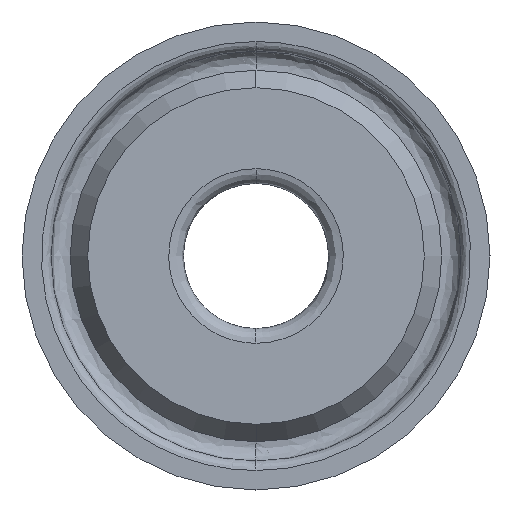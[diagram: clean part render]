
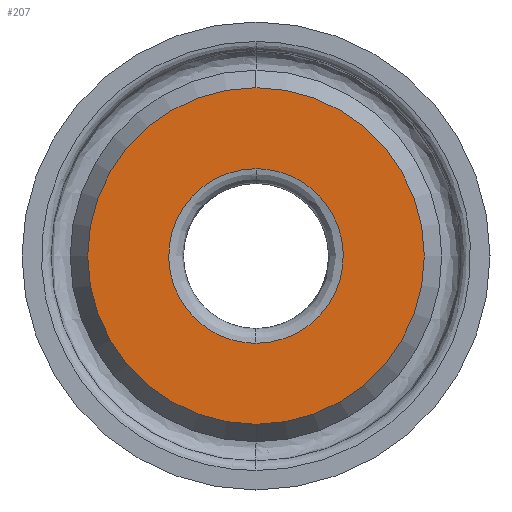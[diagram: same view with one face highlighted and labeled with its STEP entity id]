
A CAD part, left-side view. The second image highlights one B-rep face of the part: STEP entity #207.
In plain terms, the highlighted planar face has unit normal (-1, 0, 0).
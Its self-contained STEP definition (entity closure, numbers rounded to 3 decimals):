
#32 = CARTESIAN_POINT ( 'NONE',  ( 0.787, 0., 4.661 ) ) ;
#34 = EDGE_CURVE ( 'NONE', #608, #432, #741, .T. ) ;
#62 = CARTESIAN_POINT ( 'NONE',  ( 0.787, 0., 0. ) ) ;
#65 = DIRECTION ( 'NONE',  ( 1., 0., 0. ) ) ;
#75 = AXIS2_PLACEMENT_3D ( 'NONE', #403, #192, #437 ) ;
#78 = CARTESIAN_POINT ( 'NONE',  ( 0.787, 4.661, 0. ) ) ;
#85 = PLANE ( 'NONE',  #672 ) ;
#93 = DIRECTION ( 'NONE',  ( 0., 0., -1. ) ) ;
#105 = CARTESIAN_POINT ( 'NONE',  ( 0.787, 0., -4.661 ) ) ;
#144 = AXIS2_PLACEMENT_3D ( 'NONE', #62, #65, #172 ) ;
#161 = ORIENTED_EDGE ( 'NONE', *, *, #510, .F. ) ;
#165 = ORIENTED_EDGE ( 'NONE', *, *, #541, .F. ) ;
#172 = DIRECTION ( 'NONE',  ( 0., 0., -1. ) ) ;
#175 = ORIENTED_EDGE ( 'NONE', *, *, #34, .F. ) ;
#176 = ORIENTED_EDGE ( 'NONE', *, *, #606, .F. ) ;
#186 =( BOUNDED_CURVE ( )  B_SPLINE_CURVE ( 3, ( #105, #290, #452, #283 ),
 .UNSPECIFIED., .F., .F. ) 
 B_SPLINE_CURVE_WITH_KNOTS ( ( 4, 4 ),
 ( 0., 1. ),
 .UNSPECIFIED. ) 
 CURVE ( )  GEOMETRIC_REPRESENTATION_ITEM ( )  RATIONAL_B_SPLINE_CURVE ( ( 1., 0.333, 0.333, 1. ) ) 
 REPRESENTATION_ITEM ( '' )  );
#192 = DIRECTION ( 'NONE',  ( 1., 0., 0. ) ) ;
#207 = ADVANCED_FACE ( 'NONE', ( #522, #468 ), #85, .F. ) ;
#282 = CIRCLE ( 'NONE', #144, 8.987 ) ;
#283 = CARTESIAN_POINT ( 'NONE',  ( 0.787, 0., 4.661 ) ) ;
#290 = CARTESIAN_POINT ( 'NONE',  ( 0.787, -9.322, -4.661 ) ) ;
#293 = CARTESIAN_POINT ( 'NONE',  ( 0.787, 0., -8.987 ) ) ;
#374 =( BOUNDED_CURVE ( )  B_SPLINE_CURVE ( 3, ( #707, #697, #730, #736 ),
 .UNSPECIFIED., .F., .F. ) 
 B_SPLINE_CURVE_WITH_KNOTS ( ( 4, 4 ),
 ( 0., 1. ),
 .UNSPECIFIED. ) 
 CURVE ( )  GEOMETRIC_REPRESENTATION_ITEM ( )  RATIONAL_B_SPLINE_CURVE ( ( 1., 0.333, 0.333, 1. ) ) 
 REPRESENTATION_ITEM ( '' )  );
#380 = EDGE_LOOP ( 'NONE', ( #175, #165 ) ) ;
#403 = CARTESIAN_POINT ( 'NONE',  ( 0.787, 0., 0. ) ) ;
#431 = VERTEX_POINT ( 'NONE', #640 ) ;
#432 = VERTEX_POINT ( 'NONE', #642 ) ;
#437 = DIRECTION ( 'NONE',  ( 0., 0., -1. ) ) ;
#452 = CARTESIAN_POINT ( 'NONE',  ( 0.787, -9.322, 4.661 ) ) ;
#468 = FACE_BOUND ( 'NONE', #547, .T. ) ;
#510 = EDGE_CURVE ( 'NONE', #537, #431, #374, .T. ) ;
#522 = FACE_OUTER_BOUND ( 'NONE', #380, .T. ) ;
#537 = VERTEX_POINT ( 'NONE', #32 ) ;
#541 = EDGE_CURVE ( 'NONE', #432, #608, #282, .T. ) ;
#547 = EDGE_LOOP ( 'NONE', ( #176, #161 ) ) ;
#606 = EDGE_CURVE ( 'NONE', #431, #537, #186, .T. ) ;
#608 = VERTEX_POINT ( 'NONE', #293 ) ;
#640 = CARTESIAN_POINT ( 'NONE',  ( 0.787, 0., -4.661 ) ) ;
#642 = CARTESIAN_POINT ( 'NONE',  ( 0.787, 0., 8.987 ) ) ;
#672 = AXIS2_PLACEMENT_3D ( 'NONE', #78, #687, #93 ) ;
#687 = DIRECTION ( 'NONE',  ( 1., 0., 0. ) ) ;
#697 = CARTESIAN_POINT ( 'NONE',  ( 0.787, 9.322, 4.661 ) ) ;
#707 = CARTESIAN_POINT ( 'NONE',  ( 0.787, 0., 4.661 ) ) ;
#730 = CARTESIAN_POINT ( 'NONE',  ( 0.787, 9.322, -4.661 ) ) ;
#736 = CARTESIAN_POINT ( 'NONE',  ( 0.787, 0., -4.661 ) ) ;
#741 = CIRCLE ( 'NONE', #75, 8.987 ) ;
